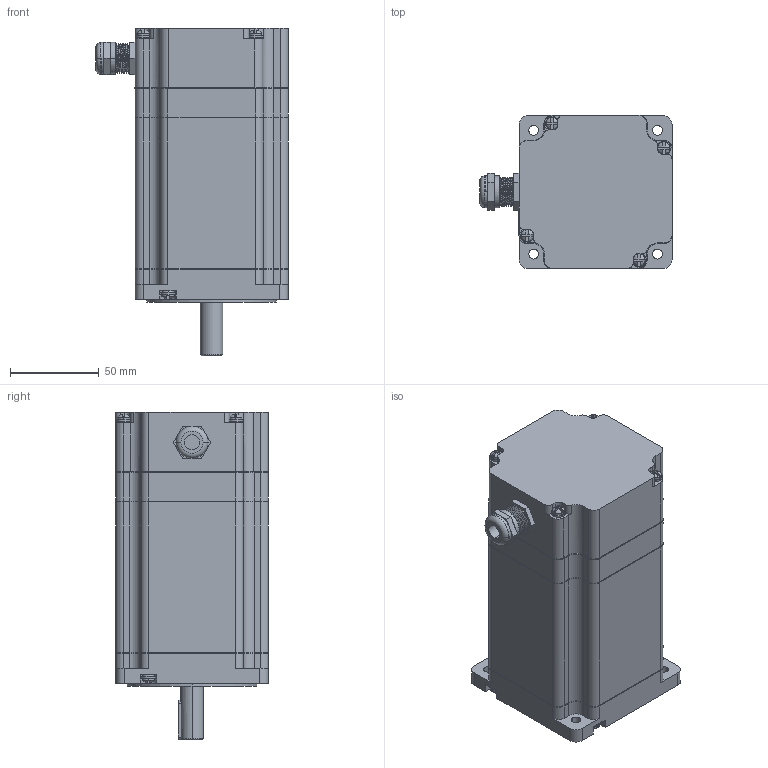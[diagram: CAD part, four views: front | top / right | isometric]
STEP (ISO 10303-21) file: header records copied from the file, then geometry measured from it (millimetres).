
FILE_DESCRIPTION((''),'2;1');
FILE_NAME('MT34HE47060M801_ASM','2025-12-19T17:13:50',('jason'),(''),'CREO PARAMETRIC BY PTC INC, 2020414','CREO PARAMETRIC BY PTC INC, 2020414','');
FILE_SCHEMA(('CONFIG_CONTROL_DESIGN'));
Length unit declared in the file: millimetre
Products named in the file (13): FE34-00010; OSCP-000001; SFA8-127-14045-3175-3175-2223; GT34-00001; ST34-845; RE34-00022-D; RC34-0000X-M12-34M000; PG-00014-M12; 317531752223000; OSCP-00002; FWCP-00002; M4; MT34HE47060M801_ASM
Assembly tree (35 placements, depth 2):
  MT34HE47060M801_ASM
    FE34-00010
    OSCP-000001
    SFA8-127-14045-3175-3175-2223
    GT34-00001  x3
    ST34-845
    RE34-00022-D
    RC34-0000X-M12-34M000
    PG-00014-M12
    317531752223000
    OSCP-00002  x8
    FWCP-00002  x8
    M4  x8
Bounding box: 108.05 x 86.1 x 184.25 mm (x, y, z)
Volume: 473900 mm3; surface area: 220677.6 mm2
Topology: 35 solids, 49 shells, 1535 faces, 4276 edges, 2821 vertices
Faces by surface type: cylinder 938, plane 415, bspline 119, torus 28, sphere 16, cone 11, extrusion 8
Entity records: 32521 total; most frequent: CARTESIAN_POINT 10917, DIRECTION 4574, ORIENTED_EDGE 4420, EDGE_CURVE 2239, AXIS2_PLACEMENT_3D 1685, VERTEX_POINT 1491, VECTOR 1204, LINE 1203
